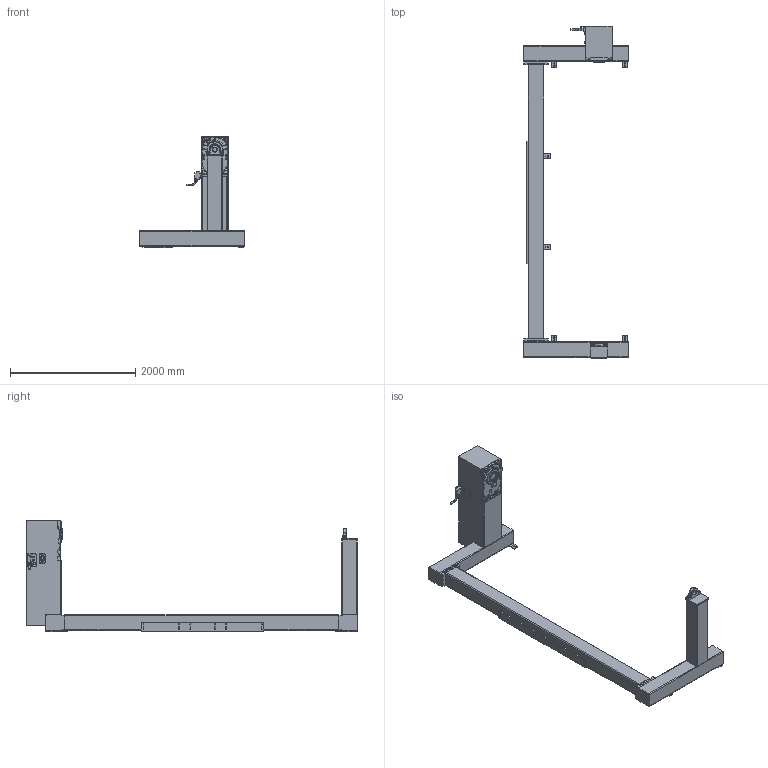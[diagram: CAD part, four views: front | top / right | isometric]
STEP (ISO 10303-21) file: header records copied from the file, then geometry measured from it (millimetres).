
FILE_DESCRIPTION(/* description */ (''),/* implementation_level */ '2;1');
FILE_NAME(/* name */ 'K1000-Base.step',/* time_stamp */ '2024-01-26T09:58:03-07:00',/* author */ (''),/* organization */ (''),/* preprocessor_version */ 'ST-DEVELOPER v20',/* originating_system */ 'Autodesk Translation Framework v12.14.0.127',/* authorisation */ '');
FILE_SCHEMA (('AUTOMOTIVE_DESIGN { 1 0 10303 214 3 1 1 }'));
Products named in the file (1): Base
Bounding box: 1670 x 5309.22 x 1784 mm (x, y, z)
Volume: 958891335.2 mm3; surface area: 13561380.2 mm2
Topology: 1 solids, 22 shells, 1398 faces, 3290 edges, 2004 vertices
Faces by surface type: plane 566, cylinder 422, bspline 261, torus 55, cone 53, sphere 41
Full cylindrical faces by diameter (mm): 5 x4, 5.5 x4, 10 x6, 10.2 x6, 12 x14, 13 x1, 14 x20, 16 x3, 18 x11, 20 x19, 21 x2, 22 x3, 22.14 x1, 23 x5, 24 x10, 25 x14, 30 x2, 31 x2, 33 x1, 37 x3, 40 x3, 52 x1, 70 x1, 85 x1, 120 x1, 180 x1, 180.1 x1, 250 x1
Entity records: 63577 total; most frequent: CARTESIAN_POINT 31000, ORIENTED_EDGE 6534, DIRECTION 6395, EDGE_CURVE 3267, AXIS2_PLACEMENT_3D 2402, VERTEX_POINT 2004, LINE 1591, VECTOR 1591
